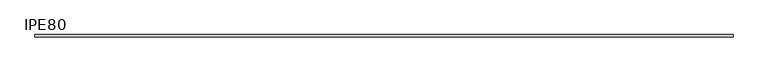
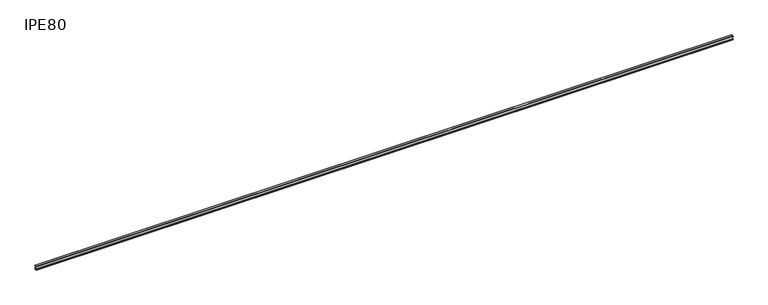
"""IFC4 building model written with IfcOpenShell, lengths in millimetres: beam geometry, IPE-Poutrelles : IPE80."""

import ifcopenshell
import ifcopenshell.guid

model = None  # the IFC model being written
_history = None  # IfcOwnerHistory: only IFC2X3 demands one
_inside = {}  # id of a spatial element -> (the spatial element, [elements in it])
_under = {}  # id of a project, library or spatial element -> (it, [spatial elements below it])
_declared = {}  # id of a project -> (the project, [libraries it declares])
_typed = {}  # id of a type object -> (the type object, [elements of that type])
_made_of = {}  # id of a material, layer set ... -> (it, [elements and type objects made of it])


def new_model(schema):
    """Start an empty IFC model of exactly this schema.

    Asked for "IFC4X3", IfcOpenShell would pick the latest addendum, in which some entities
    have other attributes; the version numbers below select the first issue.
    IFC2X3 requires an IfcOwnerHistory on every rooted entity: one is made here for all.
    """
    global model, _history
    if schema == "IFC4X3":
        model = ifcopenshell.file(schema_version=(4, 3, 0, 0))
    else:
        model = ifcopenshell.file(schema=schema)
    _inside.clear()
    _under.clear()
    _declared.clear()
    _typed.clear()
    _made_of.clear()
    _history = None
    if model.schema == "IFC2X3":
        org = make("IfcOrganization", Name="unknown")
        user = make(
            "IfcPersonAndOrganization",
            ThePerson=make("IfcPerson", FamilyName="unknown"),
            TheOrganization=org,
        )
        app = make(
            "IfcApplication",
            ApplicationDeveloper=org,
            Version="unknown",
            ApplicationFullName="unknown",
            ApplicationIdentifier="unknown",
        )
        _history = make(
            "IfcOwnerHistory",
            OwningUser=user,
            OwningApplication=app,
            ChangeAction="ADDED",
            CreationDate=0,
        )
    return model


def make(cls, **values):
    """One entity of the class cls with the attributes given. An attribute that is None is left unset."""
    return model.create_entity(
        cls, **{name: value for name, value in values.items() if value is not None}
    )


def rooted(cls, **values):
    """An entity with a GlobalId (a new one), such as an element, a storey or a relation."""
    return make(cls, GlobalId=ifcopenshell.guid.new(), OwnerHistory=_history, **values)


def si_unit(unit_type, name, prefix=None):
    """IfcSIUnit, for example si_unit("LENGTHUNIT", "METRE", prefix="MILLI")."""
    return make("IfcSIUnit", UnitType=unit_type, Prefix=prefix, Name=name)


def assignment(units):
    """IfcUnitAssignment: the units of a project."""
    return None if units is None else make("IfcUnitAssignment", Units=units)


def point(xyz):
    """IfcCartesianPoint."""
    return None if xyz is None else make("IfcCartesianPoint", Coordinates=xyz)


def direction(xyz):
    """IfcDirection."""
    return None if xyz is None else make("IfcDirection", DirectionRatios=xyz)


def frame(location, z_axis=None, x_axis=None):
    """IfcAxis2Placement3D, a coordinate frame: its origin and axes. An axis left out is left unset."""
    return make(
        "IfcAxis2Placement3D",
        Location=point(location),
        Axis=direction(z_axis),
        RefDirection=direction(x_axis),
    )


def frame_2d(location, x_axis=None):
    """IfcAxis2Placement2D, a coordinate frame in the plane: its origin and x axis."""
    return make(
        "IfcAxis2Placement2D", Location=point(location), RefDirection=direction(x_axis)
    )


def origin():
    """The frame at (0, 0, 0) with its axes left unset."""
    return frame((0.0, 0.0, 0.0))


def place(relative_to, where):
    """IfcLocalPlacement: puts the frame where relative to a parent placement (None: the world)."""
    return make(
        "IfcLocalPlacement", PlacementRelTo=relative_to, RelativePlacement=where
    )


def context(
    kind, dimensions, precision=None, world=None, true_north=None, identifier=None
):
    """IfcGeometricRepresentationContext, for example the 3D "Model" context."""
    return make(
        "IfcGeometricRepresentationContext",
        ContextIdentifier=identifier,
        ContextType=kind,
        CoordinateSpaceDimension=dimensions,
        Precision=precision,
        WorldCoordinateSystem=world,
        TrueNorth=true_north,
    )


def project(units=None, contexts=None):
    """IfcProject with its units and contexts."""
    return rooted(
        "IfcProject",
        Name="project",
        RepresentationContexts=contexts,
        UnitsInContext=assignment(units),
    )


def spatial(cls, under=None, at=None, **own):
    """A site, building, storey or space (cls), placed at a placement, below another one or the project."""
    s = rooted(cls, ObjectPlacement=at, **own)
    if under is not None:
        _under.setdefault(under.id(), (under, []))[1].append(s)
    return s


def polyline(points):
    """IfcPolyline through the points."""
    return make("IfcPolyline", Points=[point(p) for p in points])


def circle_curve(where, radius):
    """IfcCircle in the frame where."""
    return make("IfcCircle", Position=where, Radius=radius)


def trimmed(basis, trim1, trim2, sense, master):
    """IfcTrimmedCurve: the piece of a basis curve between two trims."""
    return make(
        "IfcTrimmedCurve",
        BasisCurve=basis,
        Trim1=trim1,
        Trim2=trim2,
        SenseAgreement=sense,
        MasterRepresentation=master,
    )


def segment(curve, same_sense, transition):
    """IfcCompositeCurveSegment."""
    return make(
        "IfcCompositeCurveSegment",
        Transition=transition,
        SameSense=same_sense,
        ParentCurve=curve,
    )


def composite_curve(segments, self_intersect=None):
    """IfcCompositeCurve: segments joined end to end."""
    return make("IfcCompositeCurve", Segments=segments, SelfIntersect=self_intersect)


def outline(outer, holes=None, kind="AREA"):
    """IfcArbitraryClosedProfileDef: a profile drawn as a closed curve; with holes, ...WithVoids."""
    if holes is None:
        return make("IfcArbitraryClosedProfileDef", ProfileType=kind, OuterCurve=outer)
    return make(
        "IfcArbitraryProfileDefWithVoids",
        ProfileType=kind,
        OuterCurve=outer,
        InnerCurves=holes,
    )


def extrude(swept, where, along, depth):
    """IfcExtrudedAreaSolid: the profile swept, set in the frame where, extruded along a direction by depth."""
    return make(
        "IfcExtrudedAreaSolid",
        SweptArea=swept,
        Position=where,
        ExtrudedDirection=direction(along),
        Depth=depth,
    )


def shape(context_of_items, identifier, shape_type, items):
    """IfcShapeRepresentation: the items that make up one representation, for example the "Body"."""
    return make(
        "IfcShapeRepresentation",
        ContextOfItems=context_of_items,
        RepresentationIdentifier=identifier,
        RepresentationType=shape_type,
        Items=items,
    )


def source(mapping_origin, context_of_items, identifier, shape_type, items):
    """IfcRepresentationMap: a shape defined once, which mapped items show again and again."""
    return make(
        "IfcRepresentationMap",
        MappingOrigin=mapping_origin,
        MappedRepresentation=shape(context_of_items, identifier, shape_type, items),
    )


def transform(
    local_origin,
    x_axis=None,
    y_axis=None,
    z_axis=None,
    scale=None,
    scale2=None,
    scale3=None,
    uniform=True,
):
    """IfcCartesianTransformationOperator3D, or its non-uniform kind. x_axis, y_axis, z_axis: its Axis1, 2, 3."""
    if uniform:
        return make(
            "IfcCartesianTransformationOperator3D",
            Axis1=direction(x_axis),
            Axis2=direction(y_axis),
            LocalOrigin=point(local_origin),
            Scale=scale,
            Axis3=direction(z_axis),
        )
    return make(
        "IfcCartesianTransformationOperator3DnonUniform",
        Axis1=direction(x_axis),
        Axis2=direction(y_axis),
        LocalOrigin=point(local_origin),
        Scale=scale,
        Axis3=direction(z_axis),
        Scale2=scale2,
        Scale3=scale3,
    )


def mapped(mapping_source, mapping_target):
    """IfcMappedItem: shows the shape of a source again, moved by a transform."""
    return make(
        "IfcMappedItem", MappingSource=mapping_source, MappingTarget=mapping_target
    )


def made_of(thing, what):
    """Note that an element or type object is made of a material, layer set ...; save() writes the relation."""
    if what is not None:
        _made_of.setdefault(what.id(), (what, []))[1].append(thing)
    return thing


def element(
    cls,
    number,
    at=None,
    inside=None,
    cuts=None,
    type_object=None,
    material=None,
    context=None,
    identifier="Body",
    shape_type=None,
    held_by="IfcProductDefinitionShape",
    body=None,
    shapes=None,
    **own,
):
    """One element of the class cls, such as IfcWall. Its Tag is "e" and its number.

    at: its placement. inside: the storey or other place that contains it. cuts: it is an
    opening in that element (IfcRelVoidsElement). A single representation is given by context,
    identifier, shape_type and body (its items); several are given by shapes. held_by: the class
    of the entity that holds the representations. save() writes the other relations.
    """
    e = rooted(cls, Tag="e%d" % number, ObjectPlacement=at, **own)
    if body is not None:
        shapes = [shape(context, identifier, shape_type, body)]
    if shapes is not None:
        e.Representation = make(held_by, Representations=shapes)
    if inside is not None:
        _inside.setdefault(inside.id(), (inside, []))[1].append(e)
    if cuts is not None:
        rooted(
            "IfcRelVoidsElement", RelatingBuildingElement=cuts, RelatedOpeningElement=e
        )
    if type_object is not None:
        _typed.setdefault(type_object.id(), (type_object, []))[1].append(e)
    return made_of(e, material)


def aggregate(whole, parts):
    """IfcRelAggregates: a whole, such as a stair, and the parts it consists of."""
    return rooted("IfcRelAggregates", RelatingObject=whole, RelatedObjects=parts)


def save(model, path):
    """Write the relations noted so far, then the file.

    IfcRelAggregates (storeys below a building ...), IfcRelContainedInSpatialStructure (elements
    in a storey), IfcRelDefinesByType, IfcRelAssociatesMaterial and IfcRelDeclares: one each for
    every whole, place, type object, material and project.
    """
    for whole, parts in _under.values():
        aggregate(whole, parts)
    for where, things in _inside.values():
        rooted(
            "IfcRelContainedInSpatialStructure",
            RelatedElements=things,
            RelatingStructure=where,
        )
    for kind, things in _typed.values():
        rooted("IfcRelDefinesByType", RelatedObjects=things, RelatingType=kind)
    for what, things in _made_of.values():
        rooted("IfcRelAssociatesMaterial", RelatedObjects=things, RelatingMaterial=what)
    for by, libraries in _declared.values():
        rooted("IfcRelDeclares", RelatingContext=by, RelatedDefinitions=libraries)
    model.write(path)


def ipe80_047a0edb(model_context):
    return source(origin(), model_context, "Body", "SweptSolid", [
        extrude(outline(composite_curve([segment(polyline([(23.0, -34.8), (23.0, -40.0), (-23.0, -40.0), (-23.0, -34.8), (-6.9, -34.8)]), True, "CONTINUOUS"), segment(trimmed(circle_curve(frame_2d((-6.9, -29.8)), 5.0), [point((-6.9, -34.8))], [point((-1.9, -29.8))], True, "CARTESIAN"), True, "CONTINUOUS"), segment(polyline([(-1.9, -29.8), (-1.9, 29.8)]), True, "CONTINUOUS"), segment(trimmed(circle_curve(frame_2d((-6.9, 29.8)), 5.0), [point((-1.9, 29.8))], [point((-6.9, 34.8))], True, "CARTESIAN"), True, "CONTINUOUS"), segment(polyline([(-6.9, 34.8), (-23.0, 34.8), (-23.0, 40.0), (23.0, 40.0), (23.0, 34.8), (6.9, 34.8)]), True, "CONTINUOUS"), segment(trimmed(circle_curve(frame_2d((6.9, 29.8)), 5.0), [point((6.9, 34.8))], [point((1.9, 29.8))], True, "CARTESIAN"), True, "CONTINUOUS"), segment(polyline([(1.9, 29.8), (1.9, -29.8)]), True, "CONTINUOUS"), segment(trimmed(circle_curve(frame_2d((6.9, -29.8)), 5.0), [point((1.9, -29.8))], [point((6.9, -34.8))], True, "CARTESIAN"), True, "CONTINUOUS"), segment(polyline([(6.9, -34.8), (23.0, -34.8)]), True, "CONTINUOUS")], self_intersect=False)), frame((-7264.0, 0.0, 0.0), z_axis=(1.0, 0.0, 0.0), x_axis=(0.0, 1.0, 0.0)), (0.0, 0.0, 1.0), 14564.0),
    ])


if __name__ == "__main__":
    model = new_model("IFC4")
    model_context = context("Model", 3, world=origin())
    ifc_project = project(units=[si_unit("LENGTHUNIT", "METRE", prefix="MILLI")], contexts=[model_context])
    site = spatial("IfcSite", under=ifc_project)
    building = spatial("IfcBuilding", under=site)
    placement = place(None, origin())
    ipe80_shape = ipe80_047a0edb(model_context)
    element("IfcBeam", 1, ObjectType="IPE-Poutrelles : IPE80", at=placement, inside=building, context=model_context, shape_type="MappedRepresentation", body=[
        mapped(ipe80_shape, transform((0.0, 0.0, 0.0), x_axis=(1.0, 0.0, 0.0), y_axis=(0.0, 1.0, 0.0), z_axis=(0.0, 0.0, 1.0))),
    ])
    save(model, "model.ifc")
